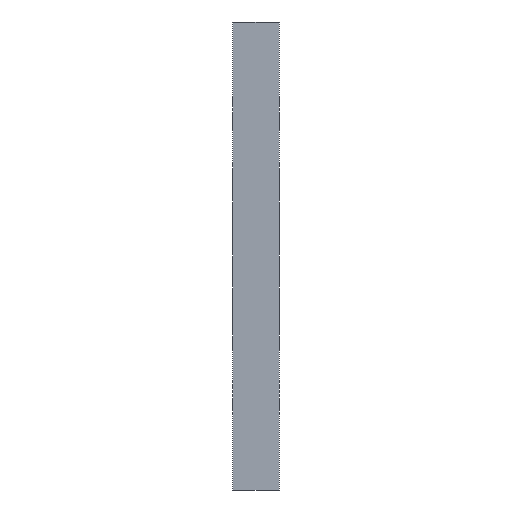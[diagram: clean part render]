
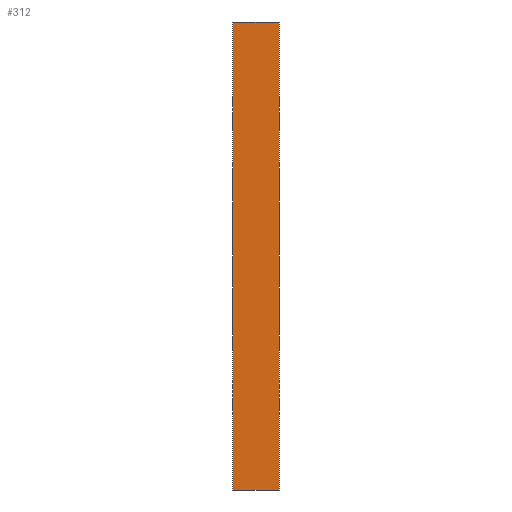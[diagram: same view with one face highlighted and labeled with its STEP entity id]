
A CAD part, front view. The second image highlights one B-rep face of the part: STEP entity #312.
In plain terms, the highlighted planar face has unit normal (0, -1, 0).
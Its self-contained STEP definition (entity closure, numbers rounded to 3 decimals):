
#21 = EDGE_CURVE('',#22,#24,#26,.T.);
#22 = VERTEX_POINT('',#23);
#23 = CARTESIAN_POINT('',(-5.,-50.,-50.));
#24 = VERTEX_POINT('',#25);
#25 = CARTESIAN_POINT('',(-5.,-50.,50.));
#26 = SURFACE_CURVE('',#27,(#31,#43),.PCURVE_S1.);
#27 = LINE('',#28,#29);
#28 = CARTESIAN_POINT('',(-5.,-50.,-50.));
#29 = VECTOR('',#30,1.);
#30 = DIRECTION('',(0.,0.,1.));
#31 = PCURVE('',#32,#37);
#32 = PLANE('',#33);
#33 = AXIS2_PLACEMENT_3D('',#34,#35,#36);
#34 = CARTESIAN_POINT('',(-5.,-50.,-50.));
#35 = DIRECTION('',(1.,0.,0.));
#36 = DIRECTION('',(0.,0.,1.));
#37 = DEFINITIONAL_REPRESENTATION('',(#38),#42);
#38 = LINE('',#39,#40);
#39 = CARTESIAN_POINT('',(0.,0.));
#40 = VECTOR('',#41,1.);
#41 = DIRECTION('',(1.,0.));
#42 = ( GEOMETRIC_REPRESENTATION_CONTEXT(2) 
PARAMETRIC_REPRESENTATION_CONTEXT() REPRESENTATION_CONTEXT('2D SPACE',''
  ) );
#43 = PCURVE('',#44,#49);
#44 = PLANE('',#45);
#45 = AXIS2_PLACEMENT_3D('',#46,#47,#48);
#46 = CARTESIAN_POINT('',(-5.,-50.,-50.));
#47 = DIRECTION('',(0.,1.,0.));
#48 = DIRECTION('',(0.,0.,1.));
#49 = DEFINITIONAL_REPRESENTATION('',(#50),#54);
#50 = LINE('',#51,#52);
#51 = CARTESIAN_POINT('',(0.,0.));
#52 = VECTOR('',#53,1.);
#53 = DIRECTION('',(1.,0.));
#54 = ( GEOMETRIC_REPRESENTATION_CONTEXT(2) 
PARAMETRIC_REPRESENTATION_CONTEXT() REPRESENTATION_CONTEXT('2D SPACE',''
  ) );
#72 = PLANE('',#73);
#73 = AXIS2_PLACEMENT_3D('',#74,#75,#76);
#74 = CARTESIAN_POINT('',(-5.,-50.,-50.));
#75 = DIRECTION('',(0.,0.,1.));
#76 = DIRECTION('',(1.,0.,0.));
#126 = PLANE('',#127);
#127 = AXIS2_PLACEMENT_3D('',#128,#129,#130);
#128 = CARTESIAN_POINT('',(-5.,-50.,50.));
#129 = DIRECTION('',(0.,0.,1.));
#130 = DIRECTION('',(1.,0.,0.));
#312 = ADVANCED_FACE('',(#313),#44,.F.);
#313 = FACE_BOUND('',#314,.F.);
#314 = EDGE_LOOP('',(#315,#338,#339,#362));
#315 = ORIENTED_EDGE('',*,*,#316,.F.);
#316 = EDGE_CURVE('',#22,#317,#319,.T.);
#317 = VERTEX_POINT('',#318);
#318 = CARTESIAN_POINT('',(5.,-50.,-50.));
#319 = SURFACE_CURVE('',#320,(#324,#331),.PCURVE_S1.);
#320 = LINE('',#321,#322);
#321 = CARTESIAN_POINT('',(-5.,-50.,-50.));
#322 = VECTOR('',#323,1.);
#323 = DIRECTION('',(1.,0.,0.));
#324 = PCURVE('',#44,#325);
#325 = DEFINITIONAL_REPRESENTATION('',(#326),#330);
#326 = LINE('',#327,#328);
#327 = CARTESIAN_POINT('',(0.,0.));
#328 = VECTOR('',#329,1.);
#329 = DIRECTION('',(0.,1.));
#330 = ( GEOMETRIC_REPRESENTATION_CONTEXT(2) 
PARAMETRIC_REPRESENTATION_CONTEXT() REPRESENTATION_CONTEXT('2D SPACE',''
  ) );
#331 = PCURVE('',#72,#332);
#332 = DEFINITIONAL_REPRESENTATION('',(#333),#337);
#333 = LINE('',#334,#335);
#334 = CARTESIAN_POINT('',(0.,0.));
#335 = VECTOR('',#336,1.);
#336 = DIRECTION('',(1.,0.));
#337 = ( GEOMETRIC_REPRESENTATION_CONTEXT(2) 
PARAMETRIC_REPRESENTATION_CONTEXT() REPRESENTATION_CONTEXT('2D SPACE',''
  ) );
#338 = ORIENTED_EDGE('',*,*,#21,.T.);
#339 = ORIENTED_EDGE('',*,*,#340,.T.);
#340 = EDGE_CURVE('',#24,#341,#343,.T.);
#341 = VERTEX_POINT('',#342);
#342 = CARTESIAN_POINT('',(5.,-50.,50.));
#343 = SURFACE_CURVE('',#344,(#348,#355),.PCURVE_S1.);
#344 = LINE('',#345,#346);
#345 = CARTESIAN_POINT('',(-5.,-50.,50.));
#346 = VECTOR('',#347,1.);
#347 = DIRECTION('',(1.,0.,0.));
#348 = PCURVE('',#44,#349);
#349 = DEFINITIONAL_REPRESENTATION('',(#350),#354);
#350 = LINE('',#351,#352);
#351 = CARTESIAN_POINT('',(100.,0.));
#352 = VECTOR('',#353,1.);
#353 = DIRECTION('',(0.,1.));
#354 = ( GEOMETRIC_REPRESENTATION_CONTEXT(2) 
PARAMETRIC_REPRESENTATION_CONTEXT() REPRESENTATION_CONTEXT('2D SPACE',''
  ) );
#355 = PCURVE('',#126,#356);
#356 = DEFINITIONAL_REPRESENTATION('',(#357),#361);
#357 = LINE('',#358,#359);
#358 = CARTESIAN_POINT('',(0.,0.));
#359 = VECTOR('',#360,1.);
#360 = DIRECTION('',(1.,0.));
#361 = ( GEOMETRIC_REPRESENTATION_CONTEXT(2) 
PARAMETRIC_REPRESENTATION_CONTEXT() REPRESENTATION_CONTEXT('2D SPACE',''
  ) );
#362 = ORIENTED_EDGE('',*,*,#363,.F.);
#363 = EDGE_CURVE('',#317,#341,#364,.T.);
#364 = SURFACE_CURVE('',#365,(#369,#376),.PCURVE_S1.);
#365 = LINE('',#366,#367);
#366 = CARTESIAN_POINT('',(5.,-50.,-50.));
#367 = VECTOR('',#368,1.);
#368 = DIRECTION('',(0.,0.,1.));
#369 = PCURVE('',#44,#370);
#370 = DEFINITIONAL_REPRESENTATION('',(#371),#375);
#371 = LINE('',#372,#373);
#372 = CARTESIAN_POINT('',(0.,10.));
#373 = VECTOR('',#374,1.);
#374 = DIRECTION('',(1.,0.));
#375 = ( GEOMETRIC_REPRESENTATION_CONTEXT(2) 
PARAMETRIC_REPRESENTATION_CONTEXT() REPRESENTATION_CONTEXT('2D SPACE',''
  ) );
#376 = PCURVE('',#377,#382);
#377 = PLANE('',#378);
#378 = AXIS2_PLACEMENT_3D('',#379,#380,#381);
#379 = CARTESIAN_POINT('',(5.,-50.,-50.));
#380 = DIRECTION('',(1.,0.,0.));
#381 = DIRECTION('',(0.,0.,1.));
#382 = DEFINITIONAL_REPRESENTATION('',(#383),#387);
#383 = LINE('',#384,#385);
#384 = CARTESIAN_POINT('',(0.,0.));
#385 = VECTOR('',#386,1.);
#386 = DIRECTION('',(1.,0.));
#387 = ( GEOMETRIC_REPRESENTATION_CONTEXT(2) 
PARAMETRIC_REPRESENTATION_CONTEXT() REPRESENTATION_CONTEXT('2D SPACE',''
  ) );
